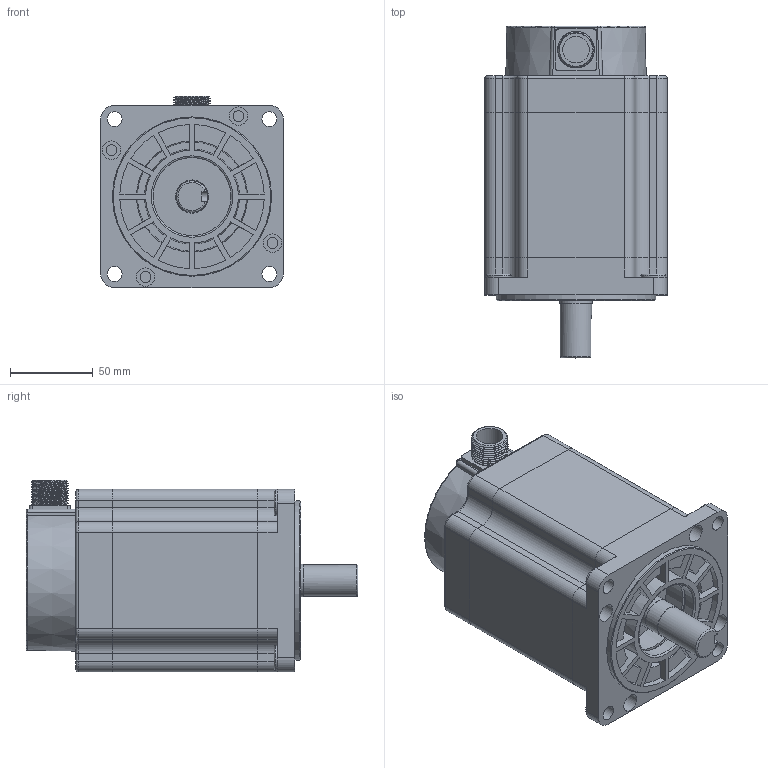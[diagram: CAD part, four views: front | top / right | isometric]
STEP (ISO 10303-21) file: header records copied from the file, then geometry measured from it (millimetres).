
FILE_DESCRIPTION(/* description */ (''),/* implementation_level */ '2;1');
FILE_NAME(/* name */ '110BYG350B(止口φ95).stp',/* time_stamp */ '2024-08-15T16:42:12+08:00',/* author */ (''),/* organization */ (''),/* preprocessor_version */ 'ST-DEVELOPER v18.1',/* originating_system */ 'SIEMENS PLM Software NX 2000',/* authorisation */ '');
FILE_SCHEMA (('AUTOMOTIVE_DESIGN { 1 0 10303 214 3 1 1 1 }'));
Length unit declared in the file: millimetre
Products named in the file (1): 925032A4A3696t5j
Bounding box: 110 x 200 x 115.5 mm (x, y, z)
Volume: 1456968.4 mm3; surface area: 169894.3 mm2
Topology: 5 solids, 5 shells, 413 faces, 1073 edges, 709 vertices
Faces by surface type: plane 198, cylinder 149, cone 31, torus 31, bspline 4
Full cylindrical faces by diameter (mm): 3 x4, 6 x4, 6.5 x8, 9 x4, 11 x4, 15 x4, 16 x1, 19 x1, 19.7 x1, 20 x2, 47 x2, 50 x1, 56 x1, 69 x1, 70 x1, 96 x1
Entity records: 15105 total; most frequent: CARTESIAN_POINT 5084, DIRECTION 2124, ORIENTED_EDGE 1988, EDGE_CURVE 994, AXIS2_PLACEMENT_3D 833, VERTEX_POINT 681, EDGE_LOOP 527, LINE 458
